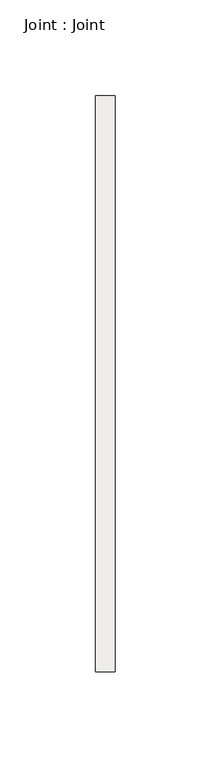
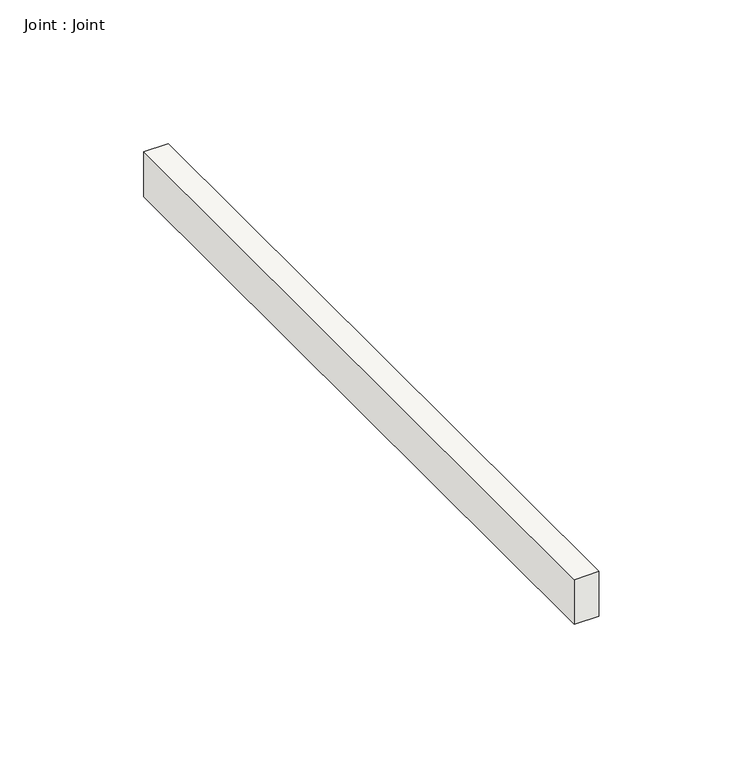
"""IFC4 building model written with IfcOpenShell, lengths in millimetres: slab geometry, Joint : Joint."""

from ifc_helpers import new_model, si_unit, frame, origin, place, context, project, spatial, polyline, outline, extrude, source, transform, mapped, element, save


def joint_joint_ec7e8ac8(model_context):
    return source(origin(), model_context, "Body", "SweptSolid", [
        extrude(outline(polyline([(3322.1463073, 3689.7175244), (3322.1463073, 3389.7175244), (3312.1463073, 3389.7175244), (3312.1463073, 3689.7175244), (3322.1463073, 3689.7175244)])), frame((0.0, 0.0, -20.0), z_axis=(0.0, 0.0, 1.0), x_axis=(1.0, 0.0, 0.0)), (0.0, 0.0, 1.0), 19.1120511),
    ])


if __name__ == "__main__":
    model = new_model("IFC4")
    model_context = context("Model", 3, world=origin())
    ifc_project = project(units=[si_unit("LENGTHUNIT", "METRE", prefix="MILLI")], contexts=[model_context])
    site = spatial("IfcSite", under=ifc_project)
    building = spatial("IfcBuilding", under=site)
    placement = place(None, origin())
    joint_joint_shape = joint_joint_ec7e8ac8(model_context)
    element("IfcSlab", 1, ObjectType="Joint : Joint", at=placement, inside=building, context=model_context, shape_type="MappedRepresentation", body=[
        mapped(joint_joint_shape, transform((0.0, 0.0, 0.0), x_axis=(1.0, 0.0, 0.0), y_axis=(0.0, 1.0, 0.0), z_axis=(0.0, 0.0, 1.0))),
    ])
    save(model, "model.ifc")
